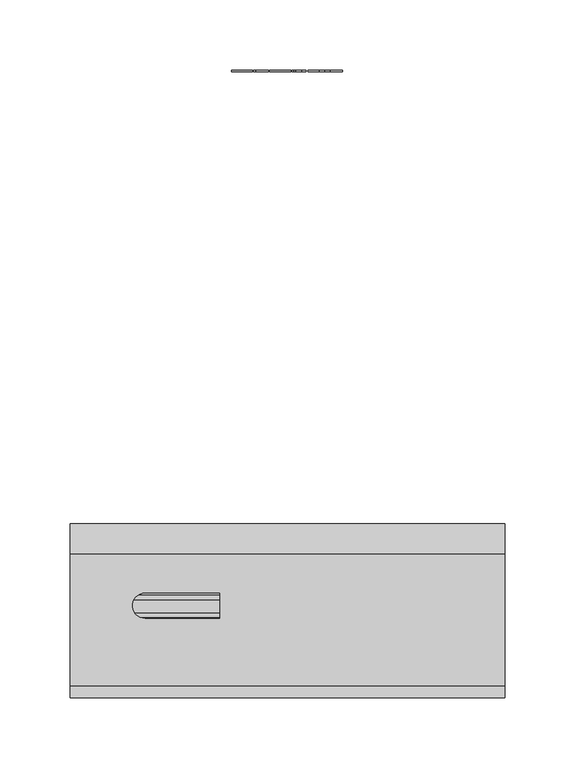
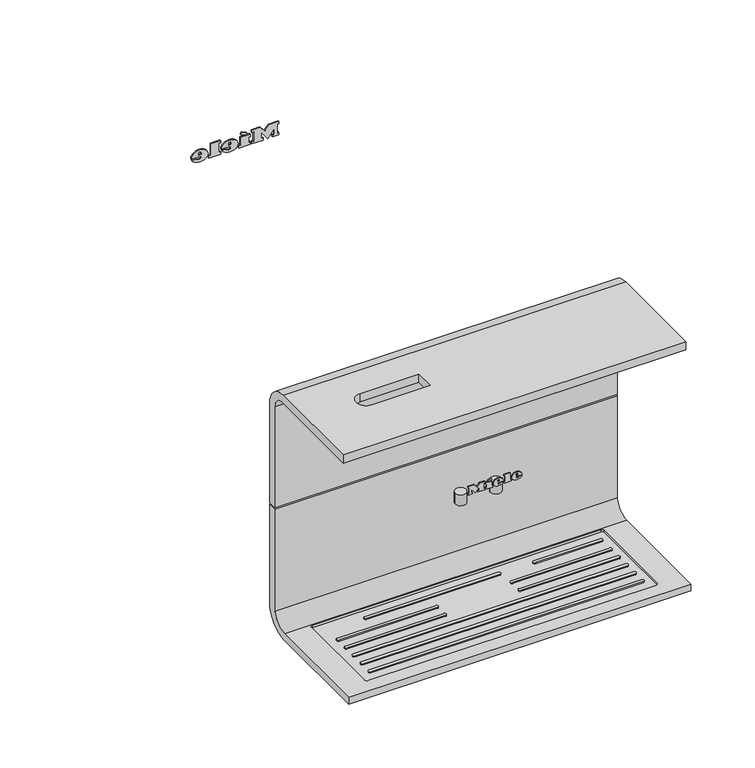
"""IFC4 building model written with IfcOpenShell, lengths in millimetres: proxy geometry, 10969310_CH_CM7750-CH_OBSW : 29775022_CH_10969310_CM7750-CH_OBSW."""

from ifc_helpers import new_model, si_unit, point, frame, frame_2d, origin, place, context, project, spatial, polyline, circle_curve, ellipse_curve, trimmed, segment, composite_curve, outline, extrude, source, transform, mapped, element, save
from ifc_brep_helpers import plane_surface, cylinder_surface, revolved_surface, extruded_surface, advanced_brep


def specialty_equipment_da40dc9f(model_context):
    return source(origin(), model_context, "Body", "SolidModel", [
        advanced_brep(
        [(20.656, -404.7777426, 179.388938), (20.656, -404.7777426, 180.196938), (26.008, -404.7777426, 180.196938), (16.696, -404.7777426, 180.196938), (18.896, -404.7777426, 177.492938), (25.872, -404.7777426, 179.388938), (23.456, -404.7777426, 179.388938), (21.552, -404.7777426, 178.492938), (20.656, -404.7777426, 181.220938), (20.656, -404.7777426, 182.092938), (22.024, -404.7777426, 182.092938), (22.024, -404.7777426, 181.220938), (20.656, -403.7777426, 179.388938), (21.552, -403.7777426, 178.492938), (23.456, -403.7777426, 179.388938), (25.872, -403.7777426, 179.388938), (18.896, -403.7777426, 177.492938), (16.696, -403.7777426, 180.196938), (26.008, -403.7777426, 180.196938), (20.656, -403.7777426, 180.196938), (20.656, -403.7777426, 181.220938), (22.024, -403.7777426, 181.220938), (22.024, -403.7777426, 182.092938), (20.656, -403.7777426, 182.092938)],
        [
            (0, 1),
            (1, 2),
            (2, 3, ellipse_curve(frame((21.352, -404.7777426, 180.196938), z_axis=(0.0, -1.0, 0.0), x_axis=(-1.0, 0.0, 0.0)), 4.656, 3.848)),
            (3, 4, circle_curve(frame((19.7920436, -404.7777426, 180.468938), z_axis=(0.0, -1.0, 0.0), x_axis=(0.0, 0.0, -1.0)), 3.1079688)),
            (4, 5, circle_curve(frame((21.2587936, -404.7777426, 182.580938), z_axis=(0.0, -1.0, 0.0), x_axis=(0.0, 0.0, -1.0)), 5.6098607)),
            (5, 6),
            (6, 7, circle_curve(frame((21.9430588, -404.7777426, 180.132938), z_axis=(0.0, 1.0, 0.0), x_axis=(0.0, 0.0, -1.0)), 1.6859795)),
            (7, 0, circle_curve(frame((21.552, -404.7777426, 179.388938), z_axis=(0.0, 1.0, 0.0), x_axis=(0.0, 0.0, -1.0)), 0.896)),
            (8, 9),
            (9, 10, circle_curve(frame((21.34, -404.7777426, 182.092938), z_axis=(0.0, 1.0, 0.0), x_axis=(0.0, 0.0, -1.0)), 0.684)),
            (10, 11),
            (11, 8),
            (12, 13, circle_curve(frame((21.552, -403.7777426, 179.388938), z_axis=(0.0, -1.0, 0.0), x_axis=(0.0, 0.0, -1.0)), 0.896)),
            (13, 14, circle_curve(frame((21.9430588, -403.7777426, 180.132938), z_axis=(0.0, -1.0, 0.0), x_axis=(0.0, 0.0, -1.0)), 1.6859795)),
            (14, 15),
            (15, 16, circle_curve(frame((21.2587936, -403.7777426, 182.580938), z_axis=(0.0, 1.0, 0.0), x_axis=(0.0, 0.0, -1.0)), 5.6098607)),
            (16, 17, circle_curve(frame((19.7920436, -403.7777426, 180.468938), z_axis=(0.0, 1.0, 0.0), x_axis=(0.0, 0.0, -1.0)), 3.1079688)),
            (17, 18, ellipse_curve(frame((21.352, -403.7777426, 180.196938), z_axis=(0.0, 1.0, 0.0), x_axis=(-1.0, 0.0, 0.0)), 4.656, 3.848)),
            (18, 19),
            (19, 12),
            (20, 21),
            (21, 22),
            (22, 23, circle_curve(frame((21.34, -403.7777426, 182.092938), z_axis=(0.0, -1.0, 0.0), x_axis=(0.0, 0.0, -1.0)), 0.684)),
            (23, 20),
            (0, 12),
            (19, 1),
            (18, 2),
            (5, 15),
            (14, 6),
            (17, 3),
            (13, 7),
            (16, 4),
            (8, 20),
            (23, 9),
            (22, 10),
            (21, 11),
        ],
        [
            plane_surface(frame((20.656, -404.7777426, 180.196938), z_axis=(0.0, -1.0, 0.0), x_axis=(0.0, 0.0, 1.0))),
            plane_surface(frame((20.656, -403.7777426, 180.196938), z_axis=(0.0, 1.0, 0.0), x_axis=(0.0, 0.0, -1.0))),
            plane_surface(frame((20.656, -404.7777426, 179.388938), z_axis=(1.0, 0.0, 0.0), x_axis=(0.0, 1.0, 0.0))),
            plane_surface(frame((20.656, -404.7777426, 180.196938), z_axis=(0.0, 0.0, -1.0), x_axis=(0.0, 1.0, 0.0))),
            plane_surface(frame((25.872, -404.7777426, 179.388938), z_axis=(0.0, 0.0, 1.0), x_axis=(0.0, 1.0, 0.0))),
            extruded_surface(trimmed(ellipse_curve(frame((21.352, -402.7777426, 180.196938), z_axis=(0.0, -1.0, 0.0), x_axis=(-1.0, 0.0, 0.0)), 4.656, 3.848), [point((26.008, -402.7777426, 180.196938))], [point((16.696, -402.7777426, 180.196938))], True, "CARTESIAN"), (0.0, -1.0, 0.0), 1.0),
            revolved_surface(polyline([(21.9430588, -403.7777426, 178.4469585), (21.9430588, -404.7777426, 178.4469585)]), (21.9430588, -403.7777426, 180.132938), (0.0, 1.0, 0.0)),
            revolved_surface(polyline([(21.552, -403.7777426, 178.492938), (21.552, -404.7777426, 178.492938)]), (21.552, -403.7777426, 179.388938), (0.0, 1.0, 0.0)),
            cylinder_surface(frame((19.7920436, -403.7777426, 180.468938), z_axis=(0.0, -1.0, 0.0), x_axis=(0.0, 0.0, -1.0)), 3.1079688),
            cylinder_surface(frame((21.2587936, -403.7777426, 182.580938), z_axis=(0.0, -1.0, 0.0), x_axis=(0.0, 0.0, -1.0)), 5.6098607),
            plane_surface(frame((20.656, -404.7777426, 181.220938), z_axis=(1.0, 0.0, 0.0), x_axis=(0.0, 1.0, 0.0))),
            revolved_surface(polyline([(21.34, -403.7777426, 181.408938), (21.34, -404.7777426, 181.408938)]), (21.34, -403.7777426, 182.092938), (0.0, 1.0, 0.0)),
            plane_surface(frame((22.024, -404.7777426, 182.092938), z_axis=(-1.0, 0.0, 0.0), x_axis=(0.0, 1.0, 0.0))),
            plane_surface(frame((22.024, -404.7777426, 181.220938), z_axis=(0.0, 0.0, 1.0), x_axis=(0.0, 1.0, 0.0))),
        ],
        [
            (0, [[1, 2, 3, 4, 5, 6, 7, 8], [9, 10, 11, 12]]),
            (1, [[13, 14, 15, 16, 17, 18, 19, 20], [21, 22, 23, 24]]),
            (2, [[-1, 25, -20, 26]]),
            (3, [[-2, -26, -19, 27]]),
            (4, [[-6, 28, -15, 29]]),
            (5, [[-3, -27, -18, 30]]),
            (6, [[-7, -29, -14, 31]]),
            (7, [[-8, -31, -13, -25]]),
            (8, [[-4, -30, -17, 32]]),
            (9, [[-5, -32, -16, -28]]),
            (10, [[-9, 33, -24, 34]]),
            (11, [[-10, -34, -23, 35]]),
            (12, [[-11, -35, -22, 36]]),
            (13, [[-12, -36, -21, -33]]),
        ],
    ),
        advanced_brep(
        [(3.96, -404.7777426, 179.388938), (3.96, -404.7777426, 180.196938), (9.312, -404.7777426, 180.196938), (0.0, -404.7777426, 180.196938), (2.2, -404.7777426, 177.492938), (9.176, -404.7777426, 179.388938), (6.76, -404.7777426, 179.388938), (4.856, -404.7777426, 178.492938), (3.96, -404.7777426, 181.220938), (3.96, -404.7777426, 182.092938), (5.328, -404.7777426, 182.092938), (5.328, -404.7777426, 181.220938), (3.96, -403.7777426, 179.388938), (4.856, -403.7777426, 178.492938), (6.76, -403.7777426, 179.388938), (9.176, -403.7777426, 179.388938), (2.2, -403.7777426, 177.492938), (0.0, -403.7777426, 180.196938), (9.312, -403.7777426, 180.196938), (3.96, -403.7777426, 180.196938), (3.96, -403.7777426, 181.220938), (5.328, -403.7777426, 181.220938), (5.328, -403.7777426, 182.092938), (3.96, -403.7777426, 182.092938)],
        [
            (0, 1),
            (1, 2),
            (2, 3, ellipse_curve(frame((4.656, -404.7777426, 180.196938), z_axis=(0.0, -1.0, 0.0), x_axis=(-1.0, 0.0, 0.0)), 4.656, 3.848)),
            (3, 4, circle_curve(frame((3.0960436, -404.7777426, 180.468938), z_axis=(0.0, -1.0, 0.0), x_axis=(0.0, 0.0, -1.0)), 3.1079688)),
            (4, 5, circle_curve(frame((4.5627936, -404.7777426, 182.580938), z_axis=(0.0, -1.0, 0.0), x_axis=(0.0, 0.0, -1.0)), 5.6098607)),
            (5, 6),
            (6, 7, circle_curve(frame((5.2470588, -404.7777426, 180.132938), z_axis=(0.0, 1.0, 0.0), x_axis=(0.0, 0.0, -1.0)), 1.6859795)),
            (7, 0, circle_curve(frame((4.856, -404.7777426, 179.388938), z_axis=(0.0, 1.0, 0.0), x_axis=(0.0, 0.0, -1.0)), 0.896)),
            (8, 9),
            (9, 10, circle_curve(frame((4.644, -404.7777426, 182.092938), z_axis=(0.0, 1.0, 0.0), x_axis=(0.0, 0.0, -1.0)), 0.684)),
            (10, 11),
            (11, 8),
            (12, 13, circle_curve(frame((4.856, -403.7777426, 179.388938), z_axis=(0.0, -1.0, 0.0), x_axis=(0.0, 0.0, -1.0)), 0.896)),
            (13, 14, circle_curve(frame((5.2470588, -403.7777426, 180.132938), z_axis=(0.0, -1.0, 0.0), x_axis=(0.0, 0.0, -1.0)), 1.6859795)),
            (14, 15),
            (15, 16, circle_curve(frame((4.5627936, -403.7777426, 182.580938), z_axis=(0.0, 1.0, 0.0), x_axis=(0.0, 0.0, -1.0)), 5.6098607)),
            (16, 17, circle_curve(frame((3.0960436, -403.7777426, 180.468938), z_axis=(0.0, 1.0, 0.0), x_axis=(0.0, 0.0, -1.0)), 3.1079688)),
            (17, 18, ellipse_curve(frame((4.656, -403.7777426, 180.196938), z_axis=(0.0, 1.0, 0.0), x_axis=(-1.0, 0.0, 0.0)), 4.656, 3.848)),
            (18, 19),
            (19, 12),
            (20, 21),
            (21, 22),
            (22, 23, circle_curve(frame((4.644, -403.7777426, 182.092938), z_axis=(0.0, -1.0, 0.0), x_axis=(0.0, 0.0, -1.0)), 0.684)),
            (23, 20),
            (0, 12),
            (19, 1),
            (18, 2),
            (5, 15),
            (14, 6),
            (17, 3),
            (13, 7),
            (16, 4),
            (8, 20),
            (23, 9),
            (22, 10),
            (21, 11),
        ],
        [
            plane_surface(frame((3.96, -404.7777426, 180.196938), z_axis=(0.0, -1.0, 0.0), x_axis=(0.0, 0.0, 1.0))),
            plane_surface(frame((3.96, -403.7777426, 180.196938), z_axis=(0.0, 1.0, 0.0), x_axis=(0.0, 0.0, -1.0))),
            plane_surface(frame((3.96, -404.7777426, 179.388938), z_axis=(1.0, 0.0, 0.0), x_axis=(0.0, 1.0, 0.0))),
            plane_surface(frame((3.96, -404.7777426, 180.196938), z_axis=(0.0, 0.0, -1.0), x_axis=(0.0, 1.0, 0.0))),
            plane_surface(frame((9.176, -404.7777426, 179.388938), z_axis=(0.0, 0.0, 1.0), x_axis=(0.0, 1.0, 0.0))),
            extruded_surface(trimmed(ellipse_curve(frame((4.656, -402.7777426, 180.196938), z_axis=(0.0, -1.0, 0.0), x_axis=(-1.0, 0.0, 0.0)), 4.656, 3.848), [point((9.312, -402.7777426, 180.196938))], [point((0.0, -402.7777426, 180.196938))], True, "CARTESIAN"), (0.0, -1.0, 0.0), 1.0),
            revolved_surface(polyline([(5.2470588, -403.7777426, 178.4469585), (5.2470588, -404.7777426, 178.4469585)]), (5.2470588, -403.7777426, 180.132938), (0.0, 1.0, 0.0)),
            revolved_surface(polyline([(4.856, -403.7777426, 178.492938), (4.856, -404.7777426, 178.492938)]), (4.856, -403.7777426, 179.388938), (0.0, 1.0, 0.0)),
            cylinder_surface(frame((3.0960436, -403.7777426, 180.468938), z_axis=(0.0, -1.0, 0.0), x_axis=(0.0, 0.0, -1.0)), 3.1079688),
            cylinder_surface(frame((4.5627936, -403.7777426, 182.580938), z_axis=(0.0, -1.0, 0.0), x_axis=(0.0, 0.0, -1.0)), 5.6098607),
            plane_surface(frame((3.96, -404.7777426, 181.220938), z_axis=(1.0, 0.0, 0.0), x_axis=(0.0, 1.0, 0.0))),
            revolved_surface(polyline([(4.644, -403.7777426, 181.408938), (4.644, -404.7777426, 181.408938)]), (4.644, -403.7777426, 182.092938), (0.0, 1.0, 0.0)),
            plane_surface(frame((5.328, -404.7777426, 182.092938), z_axis=(-1.0, 0.0, 0.0), x_axis=(0.0, 1.0, 0.0))),
            plane_surface(frame((5.328, -404.7777426, 181.220938), z_axis=(0.0, 0.0, 1.0), x_axis=(0.0, 1.0, 0.0))),
        ],
        [
            (0, [[1, 2, 3, 4, 5, 6, 7, 8], [9, 10, 11, 12]]),
            (1, [[13, 14, 15, 16, 17, 18, 19, 20], [21, 22, 23, 24]]),
            (2, [[-1, 25, -20, 26]]),
            (3, [[-2, -26, -19, 27]]),
            (4, [[-6, 28, -15, 29]]),
            (5, [[-3, -27, -18, 30]]),
            (6, [[-7, -29, -14, 31]]),
            (7, [[-8, -31, -13, -25]]),
            (8, [[-4, -30, -17, 32]]),
            (9, [[-5, -32, -16, -28]]),
            (10, [[-9, 33, -24, 34]]),
            (11, [[-10, -34, -23, 35]]),
            (12, [[-11, -35, -22, 36]]),
            (13, [[-12, -36, -21, -33]]),
        ],
    ),
        extrude(outline(polyline([(185.020938, -4.784), (183.724938, -4.176), (184.988938, -1.464), (186.284938, -2.064), (185.020938, -4.784)])), frame((0.0, -404.7777426, 0.0), z_axis=(0.0, 1.0, 0.0), x_axis=(0.0, 0.0, 1.0)), (0.0, 0.0, 1.0), 1.0),
        extrude(outline(polyline([(183.548938, -6.76), (182.116938, -6.76), (182.116938, -5.808), (178.836938, -5.808), (178.836938, -6.76), (177.492938, -6.76), (177.492938, -0.448), (178.836938, -0.448), (178.836938, -1.376), (183.548938, -1.376), (183.548938, -6.76)])), frame((0.0, -404.7777426, 0.0), z_axis=(0.0, 1.0, 0.0), x_axis=(0.0, 0.0, 1.0)), (0.0, 0.0, 1.0), 1.0),
        extrude(outline(polyline([(184.188938, 9.76), (184.188938, 10.72), (178.836938, 10.72), (178.836938, 9.76), (177.492938, 9.76), (177.492938, 16.248), (178.836938, 16.248), (178.836938, 15.264), (185.492938, 15.264), (185.492938, 9.76), (184.188938, 9.76)])), frame((0.0, -404.7777426, 0.0), z_axis=(0.0, 1.0, 0.0), x_axis=(0.0, 0.0, 1.0)), (0.0, 0.0, 1.0), 1.0),
        extrude(outline(polyline([(184.188938, -22.704), (184.188938, -21.736), (178.836938, -21.736), (178.836938, -22.704), (177.492938, -22.704), (177.492938, -19.184), (178.836938, -19.184), (178.836938, -20.144), (182.2400628, -20.144), (177.492938, -16.568), (182.3081603, -12.976), (178.836938, -12.976), (178.836938, -13.96), (177.492938, -13.96), (177.492938, -7.576), (178.836938, -7.576), (178.836938, -8.592), (184.188938, -8.592), (184.188938, -7.576), (185.492938, -7.576), (185.492938, -12.448), (182.492938, -14.784), (185.492938, -17.128), (185.492938, -22.704), (184.188938, -22.704)])), frame((0.0, -404.7777426, 0.0), z_axis=(0.0, 1.0, 0.0), x_axis=(0.0, 0.0, 1.0)), (0.0, 0.0, 1.0), 1.0),
        advanced_brep(
        [(-31.1634333, 1.0, 258.452223), (-31.1634333, 1.0, 259.765223), (-39.8604333, 1.0, 259.765223), (-24.7284333, 1.0, 259.765223), (-28.3034333, 1.0, 255.371223), (-39.6394333, 1.0, 258.452223), (-35.7134333, 1.0, 258.452223), (-32.6194333, 1.0, 256.996223), (-31.1634333, 1.0, 261.429223), (-31.1634333, 1.0, 262.846223), (-33.3864333, 1.0, 262.846223), (-33.3864333, 1.0, 261.429223), (-31.1634333, 0.0, 258.452223), (-32.6194333, 0.0, 256.996223), (-35.7134333, 0.0, 258.452223), (-39.6394333, 0.0, 258.452223), (-28.3034333, 0.0, 255.371223), (-24.7284333, 0.0, 259.765223), (-39.8604333, 0.0, 259.765223), (-31.1634333, 0.0, 259.765223), (-31.1634333, 0.0, 261.429223), (-33.3864333, 0.0, 261.429223), (-33.3864333, 0.0, 262.846223), (-31.1634333, 0.0, 262.846223)],
        [
            (0, 1),
            (1, 2),
            (2, 3, ellipse_curve(frame((-32.2944333, 1.0, 259.765223), z_axis=(0.0, 1.0, 0.0), x_axis=(1.0, 0.0, 0.0)), 7.566, 6.253)),
            (3, 4, circle_curve(frame((-29.7595042, 1.0, 260.207223), z_axis=(0.0, 1.0, 0.0), x_axis=(0.0, 0.0, -1.0)), 5.0504493)),
            (4, 5, circle_curve(frame((-32.1429729, 1.0, 263.639223), z_axis=(0.0, 1.0, 0.0), x_axis=(0.0, 0.0, -1.0)), 9.1160237)),
            (5, 6),
            (6, 7, circle_curve(frame((-33.2549039, 1.0, 259.661223), z_axis=(0.0, -1.0, 0.0), x_axis=(0.0, 0.0, -1.0)), 2.7397167)),
            (7, 0, circle_curve(frame((-32.6194333, 1.0, 258.452223), z_axis=(0.0, -1.0, 0.0), x_axis=(0.0, 0.0, -1.0)), 1.456)),
            (8, 9),
            (9, 10, circle_curve(frame((-32.2749333, 1.0, 262.846223), z_axis=(0.0, -1.0, 0.0), x_axis=(0.0, 0.0, -1.0)), 1.1115)),
            (10, 11),
            (11, 8),
            (12, 13, circle_curve(frame((-32.6194333, 0.0, 258.452223), z_axis=(0.0, 1.0, 0.0), x_axis=(0.0, 0.0, -1.0)), 1.456)),
            (13, 14, circle_curve(frame((-33.2549039, 0.0, 259.661223), z_axis=(0.0, 1.0, 0.0), x_axis=(0.0, 0.0, -1.0)), 2.7397167)),
            (14, 15),
            (15, 16, circle_curve(frame((-32.1429729, 0.0, 263.639223), z_axis=(0.0, -1.0, 0.0), x_axis=(0.0, 0.0, -1.0)), 9.1160237)),
            (16, 17, circle_curve(frame((-29.7595042, 0.0, 260.207223), z_axis=(0.0, -1.0, 0.0), x_axis=(0.0, 0.0, -1.0)), 5.0504493)),
            (17, 18, ellipse_curve(frame((-32.2944333, 0.0, 259.765223), z_axis=(0.0, -1.0, 0.0), x_axis=(1.0, 0.0, 0.0)), 7.566, 6.253)),
            (18, 19),
            (19, 12),
            (20, 21),
            (21, 22),
            (22, 23, circle_curve(frame((-32.2749333, 0.0, 262.846223), z_axis=(0.0, 1.0, 0.0), x_axis=(0.0, 0.0, -1.0)), 1.1115)),
            (23, 20),
            (0, 12),
            (19, 1),
            (18, 2),
            (5, 15),
            (14, 6),
            (17, 3),
            (13, 7),
            (16, 4),
            (8, 20),
            (23, 9),
            (22, 10),
            (21, 11),
        ],
        [
            plane_surface(frame((-31.1634333, 1.0, 259.765223), z_axis=(0.0, 1.0, 0.0), x_axis=(0.0, 0.0, 1.0))),
            plane_surface(frame((-31.1634333, 0.0, 259.765223), z_axis=(0.0, -1.0, 0.0), x_axis=(0.0, 0.0, -1.0))),
            plane_surface(frame((-31.1634333, 1.0, 258.452223), z_axis=(-1.0, 0.0, 0.0), x_axis=(0.0, -1.0, 0.0))),
            plane_surface(frame((-31.1634333, 1.0, 259.765223), z_axis=(0.0, 0.0, -1.0), x_axis=(0.0, -1.0, 0.0))),
            plane_surface(frame((-39.6394333, 1.0, 258.452223), z_axis=(0.0, 0.0, 1.0), x_axis=(0.0, -1.0, 0.0))),
            extruded_surface(trimmed(ellipse_curve(frame((-32.2944333, -1.0, 259.765223), z_axis=(0.0, 1.0, 0.0), x_axis=(1.0, 0.0, 0.0)), 7.566, 6.253), [point((-39.8604333, -1.0, 259.765223))], [point((-24.7284333, -1.0, 259.765223))], True, "CARTESIAN"), (0.0, 1.0, 0.0), 1.0),
            revolved_surface(polyline([(-33.2549039, 0.0, 256.92150630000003), (-33.2549039, 1.0, 256.92150630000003)]), (-33.2549039, 0.0, 259.661223), (0.0, -1.0, 0.0)),
            revolved_surface(polyline([(-32.6194333, 0.0, 256.996223), (-32.6194333, 1.0, 256.996223)]), (-32.6194333, 0.0, 258.452223), (0.0, -1.0, 0.0)),
            cylinder_surface(frame((-29.7595042, 0.0, 260.207223), z_axis=(0.0, 1.0, 0.0), x_axis=(0.0, 0.0, -1.0)), 5.0504493),
            cylinder_surface(frame((-32.1429729, 0.0, 263.639223), z_axis=(0.0, 1.0, 0.0), x_axis=(0.0, 0.0, -1.0)), 9.1160237),
            plane_surface(frame((-31.1634333, 1.0, 261.429223), z_axis=(-1.0, 0.0, 0.0), x_axis=(0.0, -1.0, 0.0))),
            revolved_surface(polyline([(-32.2749333, 0.0, 261.73472300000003), (-32.2749333, 1.0, 261.73472300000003)]), (-32.2749333, 0.0, 262.846223), (0.0, -1.0, 0.0)),
            plane_surface(frame((-33.3864333, 1.0, 262.846223), z_axis=(1.0, 0.0, 0.0), x_axis=(0.0, -1.0, 0.0))),
            plane_surface(frame((-33.3864333, 1.0, 261.429223), z_axis=(0.0, 0.0, 1.0), x_axis=(0.0, -1.0, 0.0))),
        ],
        [
            (0, [[1, 2, 3, 4, 5, 6, 7, 8], [9, 10, 11, 12]]),
            (1, [[13, 14, 15, 16, 17, 18, 19, 20], [21, 22, 23, 24]]),
            (2, [[-1, 25, -20, 26]]),
            (3, [[-2, -26, -19, 27]]),
            (4, [[-6, 28, -15, 29]]),
            (5, [[-3, -27, -18, 30]]),
            (6, [[-7, -29, -14, 31]]),
            (7, [[-8, -31, -13, -25]]),
            (8, [[-4, -30, -17, 32]]),
            (9, [[-5, -32, -16, -28]]),
            (10, [[-9, 33, -24, 34]]),
            (11, [[-10, -34, -23, 35]]),
            (12, [[-11, -35, -22, 36]]),
            (13, [[-12, -36, -21, -33]]),
        ],
    ),
        advanced_brep(
        [(-4.0324333, 1.0, 258.452223), (-4.0324333, 1.0, 259.765223), (-12.7294333, 1.0, 259.765223), (2.4025667, 1.0, 259.765223), (-1.1724333, 1.0, 255.371223), (-12.5084333, 1.0, 258.452223), (-8.5824333, 1.0, 258.452223), (-5.4884333, 1.0, 256.996223), (-4.0324333, 1.0, 261.429223), (-4.0324333, 1.0, 262.846223), (-6.2554333, 1.0, 262.846223), (-6.2554333, 1.0, 261.429223), (-4.0324333, 0.0, 258.452223), (-5.4884333, 0.0, 256.996223), (-8.5824333, 0.0, 258.452223), (-12.5084333, 0.0, 258.452223), (-1.1724333, 0.0, 255.371223), (2.4025667, 0.0, 259.765223), (-12.7294333, 0.0, 259.765223), (-4.0324333, 0.0, 259.765223), (-4.0324333, 0.0, 261.429223), (-6.2554333, 0.0, 261.429223), (-6.2554333, 0.0, 262.846223), (-4.0324333, 0.0, 262.846223)],
        [
            (0, 1),
            (1, 2),
            (2, 3, ellipse_curve(frame((-5.1634333, 1.0, 259.765223), z_axis=(0.0, 1.0, 0.0), x_axis=(1.0, 0.0, 0.0)), 7.566, 6.253)),
            (3, 4, circle_curve(frame((-2.6285042, 1.0, 260.207223), z_axis=(0.0, 1.0, 0.0), x_axis=(0.0, 0.0, -1.0)), 5.0504493)),
            (4, 5, circle_curve(frame((-5.0119729, 1.0, 263.639223), z_axis=(0.0, 1.0, 0.0), x_axis=(0.0, 0.0, -1.0)), 9.1160237)),
            (5, 6),
            (6, 7, circle_curve(frame((-6.1239039, 1.0, 259.661223), z_axis=(0.0, -1.0, 0.0), x_axis=(0.0, 0.0, -1.0)), 2.7397167)),
            (7, 0, circle_curve(frame((-5.4884333, 1.0, 258.452223), z_axis=(0.0, -1.0, 0.0), x_axis=(0.0, 0.0, -1.0)), 1.456)),
            (8, 9),
            (9, 10, circle_curve(frame((-5.1439333, 1.0, 262.846223), z_axis=(0.0, -1.0, 0.0), x_axis=(0.0, 0.0, -1.0)), 1.1115)),
            (10, 11),
            (11, 8),
            (12, 13, circle_curve(frame((-5.4884333, 0.0, 258.452223), z_axis=(0.0, 1.0, 0.0), x_axis=(0.0, 0.0, -1.0)), 1.456)),
            (13, 14, circle_curve(frame((-6.1239039, 0.0, 259.661223), z_axis=(0.0, 1.0, 0.0), x_axis=(0.0, 0.0, -1.0)), 2.7397167)),
            (14, 15),
            (15, 16, circle_curve(frame((-5.0119729, 0.0, 263.639223), z_axis=(0.0, -1.0, 0.0), x_axis=(0.0, 0.0, -1.0)), 9.1160237)),
            (16, 17, circle_curve(frame((-2.6285042, 0.0, 260.207223), z_axis=(0.0, -1.0, 0.0), x_axis=(0.0, 0.0, -1.0)), 5.0504493)),
            (17, 18, ellipse_curve(frame((-5.1634333, 0.0, 259.765223), z_axis=(0.0, -1.0, 0.0), x_axis=(1.0, 0.0, 0.0)), 7.566, 6.253)),
            (18, 19),
            (19, 12),
            (20, 21),
            (21, 22),
            (22, 23, circle_curve(frame((-5.1439333, 0.0, 262.846223), z_axis=(0.0, 1.0, 0.0), x_axis=(0.0, 0.0, -1.0)), 1.1115)),
            (23, 20),
            (0, 12),
            (19, 1),
            (18, 2),
            (5, 15),
            (14, 6),
            (17, 3),
            (13, 7),
            (16, 4),
            (8, 20),
            (23, 9),
            (22, 10),
            (21, 11),
        ],
        [
            plane_surface(frame((-4.0324333, 1.0, 259.765223), z_axis=(0.0, 1.0, 0.0), x_axis=(0.0, 0.0, 1.0))),
            plane_surface(frame((-4.0324333, 0.0, 259.765223), z_axis=(0.0, -1.0, 0.0), x_axis=(0.0, 0.0, -1.0))),
            plane_surface(frame((-4.0324333, 1.0, 258.452223), z_axis=(-1.0, 0.0, 0.0), x_axis=(0.0, -1.0, 0.0))),
            plane_surface(frame((-4.0324333, 1.0, 259.765223), z_axis=(0.0, 0.0, -1.0), x_axis=(0.0, -1.0, 0.0))),
            plane_surface(frame((-12.5084333, 1.0, 258.452223), z_axis=(0.0, 0.0, 1.0), x_axis=(0.0, -1.0, 0.0))),
            extruded_surface(trimmed(ellipse_curve(frame((-5.1634333, -1.0, 259.765223), z_axis=(0.0, 1.0, 0.0), x_axis=(1.0, 0.0, 0.0)), 7.566, 6.253), [point((-12.7294333, -1.0, 259.765223))], [point((2.4025667, -1.0, 259.765223))], True, "CARTESIAN"), (0.0, 1.0, 0.0), 1.0),
            revolved_surface(polyline([(-6.1239039, 0.0, 256.92150630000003), (-6.1239039, 1.0, 256.92150630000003)]), (-6.1239039, 0.0, 259.661223), (0.0, -1.0, 0.0)),
            revolved_surface(polyline([(-5.4884333, 0.0, 256.996223), (-5.4884333, 1.0, 256.996223)]), (-5.4884333, 0.0, 258.452223), (0.0, -1.0, 0.0)),
            cylinder_surface(frame((-2.6285042, 0.0, 260.207223), z_axis=(0.0, 1.0, 0.0), x_axis=(0.0, 0.0, -1.0)), 5.0504493),
            cylinder_surface(frame((-5.0119729, 0.0, 263.639223), z_axis=(0.0, 1.0, 0.0), x_axis=(0.0, 0.0, -1.0)), 9.1160237),
            plane_surface(frame((-4.0324333, 1.0, 261.429223), z_axis=(-1.0, 0.0, 0.0), x_axis=(0.0, -1.0, 0.0))),
            revolved_surface(polyline([(-5.1439333, 0.0, 261.73472300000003), (-5.1439333, 1.0, 261.73472300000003)]), (-5.1439333, 0.0, 262.846223), (0.0, -1.0, 0.0)),
            plane_surface(frame((-6.2554333, 1.0, 262.846223), z_axis=(1.0, 0.0, 0.0), x_axis=(0.0, -1.0, 0.0))),
            plane_surface(frame((-6.2554333, 1.0, 261.429223), z_axis=(0.0, 0.0, 1.0), x_axis=(0.0, -1.0, 0.0))),
        ],
        [
            (0, [[1, 2, 3, 4, 5, 6, 7, 8], [9, 10, 11, 12]]),
            (1, [[13, 14, 15, 16, 17, 18, 19, 20], [21, 22, 23, 24]]),
            (2, [[-1, 25, -20, 26]]),
            (3, [[-2, -26, -19, 27]]),
            (4, [[-6, 28, -15, 29]]),
            (5, [[-3, -27, -18, 30]]),
            (6, [[-7, -29, -14, 31]]),
            (7, [[-8, -31, -13, -25]]),
            (8, [[-4, -30, -17, 32]]),
            (9, [[-5, -32, -16, -28]]),
            (10, [[-9, 33, -24, 34]]),
            (11, [[-10, -34, -23, 35]]),
            (12, [[-11, -35, -22, 36]]),
            (13, [[-12, -36, -21, -33]]),
        ],
    ),
        extrude(outline(polyline([(267.604223, 10.1765667), (269.658223, 5.7565667), (267.552223, 4.7815667), (265.498223, 9.1885667), (267.604223, 10.1765667)])), frame((0.0, 0.0, 0.0), z_axis=(0.0, 1.0, 0.0), x_axis=(0.0, 0.0, 1.0)), (0.0, 0.0, 1.0), 1.0),
        extrude(outline(polyline([(265.212223, 13.3875667), (265.212223, 4.6385667), (257.555223, 4.6385667), (257.555223, 3.1305667), (255.371223, 3.1305667), (255.371223, 13.3875667), (257.555223, 13.3875667), (257.555223, 11.8405667), (262.885223, 11.8405667), (262.885223, 13.3875667), (265.212223, 13.3875667)])), frame((0.0, 0.0, 0.0), z_axis=(0.0, 1.0, 0.0), x_axis=(0.0, 0.0, 1.0)), (0.0, 0.0, 1.0), 1.0),
        extrude(outline(polyline([(266.252223, -13.4574333), (268.371223, -13.4574333), (268.371223, -22.4014333), (257.555223, -22.4014333), (257.555223, -24.0004333), (255.371223, -24.0004333), (255.371223, -13.4574333), (257.555223, -13.4574333), (257.555223, -15.0174333), (266.252223, -15.0174333), (266.252223, -13.4574333)])), frame((0.0, 0.0, 0.0), z_axis=(0.0, 1.0, 0.0), x_axis=(0.0, 0.0, 1.0)), (0.0, 0.0, 1.0), 1.0),
        extrude(outline(polyline([(266.252223, 39.2965667), (268.371223, 39.2965667), (268.371223, 30.2355667), (263.496223, 26.4265667), (268.371223, 22.6305667), (268.371223, 14.7135667), (266.252223, 14.7135667), (266.252223, 16.3645667), (257.555223, 16.3645667), (257.555223, 14.7135667), (255.371223, 14.7135667), (255.371223, 25.0875667), (257.555223, 25.0875667), (257.555223, 23.4885667), (263.3114453, 23.4885667), (255.371223, 29.3255667), (263.0533477, 35.1365667), (257.555223, 35.1365667), (257.555223, 33.5765667), (255.371223, 33.5765667), (255.371223, 39.2965667), (257.555223, 39.2965667), (257.555223, 37.7235667), (266.252223, 37.7235667), (266.252223, 39.2965667)])), frame((0.0, 0.0, 0.0), z_axis=(0.0, 1.0, 0.0), x_axis=(0.0, 0.0, 1.0)), (0.0, 0.0, 1.0), 1.0),
        extrude(outline(composite_curve([segment(polyline([(-89.8000031, -358.6296101), (30.7999992, -358.6296101)]), True, "CONTINUOUS"), segment(trimmed(circle_curve(frame_2d((30.7999992, -360.0695515)), 1.4399414), [point((30.7999992, -358.6296101))], [point((30.7999992, -361.5094929))], False, "CARTESIAN"), True, "CONTINUOUS"), segment(polyline([(30.7999992, -361.5094929), (-89.8000031, -361.5094929)]), True, "CONTINUOUS"), segment(trimmed(circle_curve(frame_2d((-89.8000031, -360.0695515)), 1.4399414), [point((-89.8000031, -361.5094929))], [point((-89.8000031, -358.6296101))], False, "CARTESIAN"), True, "CONTINUOUS")], self_intersect=False)), frame((0.0, 0.0, 55.6828861), z_axis=(0.0, 0.0, 1.0), x_axis=(1.0, 0.0, 0.0)), (0.0, 0.0, 1.0), 1.0),
        extrude(outline(composite_curve([segment(trimmed(circle_curve(frame_2d((-34.2000008, -374.8195515)), 1.4399395), [point((-34.2000008, -373.379612))], [point((-34.2000008, -376.259491))], False, "CARTESIAN"), True, "CONTINUOUS"), segment(polyline([(-34.2000008, -376.259491), (-123.3000031, -376.259491)]), True, "CONTINUOUS"), segment(trimmed(circle_curve(frame_2d((-123.3000031, -374.8195515)), 1.4399395), [point((-123.3000031, -376.259491))], [point((-123.3000031, -373.379612))], False, "CARTESIAN"), True, "CONTINUOUS"), segment(polyline([(-123.3000031, -373.379612), (-34.2000008, -373.379612)]), True, "CONTINUOUS")], self_intersect=False)), frame((0.0, 0.0, 55.6828861), z_axis=(0.0, 0.0, 1.0), x_axis=(1.0, 0.0, 0.0)), (0.0, 0.0, 1.0), 1.0),
        extrude(outline(composite_curve([segment(trimmed(circle_curve(frame_2d((-34.2000008, -387.3195515)), 1.4399395), [point((-34.2000008, -385.879612))], [point((-34.2000008, -388.759491))], False, "CARTESIAN"), True, "CONTINUOUS"), segment(polyline([(-34.2000008, -388.759491), (-123.3000031, -388.759491)]), True, "CONTINUOUS"), segment(trimmed(circle_curve(frame_2d((-123.3000031, -387.3195515)), 1.4399395), [point((-123.3000031, -388.759491))], [point((-123.3000031, -385.879612))], False, "CARTESIAN"), True, "CONTINUOUS"), segment(polyline([(-123.3000031, -385.879612), (-34.2000008, -385.879612)]), True, "CONTINUOUS")], self_intersect=False)), frame((0.0, 0.0, 55.6828861), z_axis=(0.0, 0.0, 1.0), x_axis=(1.0, 0.0, 0.0)), (0.0, 0.0, 1.0), 1.0),
        extrude(outline(composite_curve([segment(polyline([(34.2000008, -373.379612), (123.3000031, -373.379612)]), True, "CONTINUOUS"), segment(trimmed(circle_curve(frame_2d((123.3000031, -374.8195515)), 1.4399395), [point((123.3000031, -373.379612))], [point((123.3000031, -376.259491))], False, "CARTESIAN"), True, "CONTINUOUS"), segment(polyline([(123.3000031, -376.259491), (34.2000008, -376.259491)]), True, "CONTINUOUS"), segment(trimmed(circle_curve(frame_2d((34.2000008, -374.8195515)), 1.4399395), [point((34.2000008, -376.259491))], [point((34.2000008, -373.379612))], False, "CARTESIAN"), True, "CONTINUOUS")], self_intersect=False)), frame((0.0, 0.0, 55.6828861), z_axis=(0.0, 0.0, 1.0), x_axis=(1.0, 0.0, 0.0)), (0.0, 0.0, 1.0), 1.0),
        extrude(outline(composite_curve([segment(polyline([(34.2000008, -385.879612), (123.3000031, -385.879612)]), True, "CONTINUOUS"), segment(trimmed(circle_curve(frame_2d((123.3000031, -387.3195515)), 1.4399395), [point((123.3000031, -385.879612))], [point((123.3000031, -388.759491))], False, "CARTESIAN"), True, "CONTINUOUS"), segment(polyline([(123.3000031, -388.759491), (34.2000008, -388.759491)]), True, "CONTINUOUS"), segment(trimmed(circle_curve(frame_2d((34.2000008, -387.3195515)), 1.4399395), [point((34.2000008, -388.759491))], [point((34.2000008, -385.879612))], False, "CARTESIAN"), True, "CONTINUOUS")], self_intersect=False)), frame((0.0, 0.0, 55.6828861), z_axis=(0.0, 0.0, 1.0), x_axis=(1.0, 0.0, 0.0)), (0.0, 0.0, 1.0), 1.0),
        extrude(outline(composite_curve([segment(trimmed(circle_curve(frame_2d((123.3000031, -360.066061)), 1.4364509), [point((123.3000031, -358.6296101))], [point((123.3000031, -361.5025119))], False, "CARTESIAN"), True, "CONTINUOUS"), segment(polyline([(123.3000031, -361.5025119), (63.2000008, -361.5025119)]), True, "CONTINUOUS"), segment(trimmed(circle_curve(frame_2d((63.2000008, -360.066061)), 1.4364509), [point((63.2000008, -361.5025119))], [point((63.2000008, -358.6296101))], False, "CARTESIAN"), True, "CONTINUOUS"), segment(polyline([(63.2000008, -358.6296101), (123.3000031, -358.6296101)]), True, "CONTINUOUS")], self_intersect=False)), frame((0.0, 0.0, 55.6828861), z_axis=(0.0, 0.0, 1.0), x_axis=(1.0, 0.0, 0.0)), (0.0, 0.0, 1.0), 1.0),
        extrude(outline(composite_curve([segment(trimmed(circle_curve(frame_2d((123.3000031, -399.8195515)), 1.4399395), [point((123.3000031, -398.379612))], [point((123.3000031, -401.259491))], False, "CARTESIAN"), True, "CONTINUOUS"), segment(polyline([(123.3000031, -401.259491), (-123.3000031, -401.259491)]), True, "CONTINUOUS"), segment(trimmed(circle_curve(frame_2d((-123.3000031, -399.8195515)), 1.4399395), [point((-123.3000031, -401.259491))], [point((-123.3000031, -398.379612))], False, "CARTESIAN"), True, "CONTINUOUS"), segment(polyline([(-123.3000031, -398.379612), (123.3000031, -398.379612)]), True, "CONTINUOUS")], self_intersect=False)), frame((0.0, 0.0, 55.6828861), z_axis=(0.0, 0.0, 1.0), x_axis=(1.0, 0.0, 0.0)), (0.0, 0.0, 1.0), 1.0),
        extrude(outline(composite_curve([segment(trimmed(circle_curve(frame_2d((123.3000031, -412.3195515)), 1.4399395), [point((123.3000031, -410.879612))], [point((123.3000031, -413.759491))], False, "CARTESIAN"), True, "CONTINUOUS"), segment(polyline([(123.3000031, -413.759491), (-123.3000031, -413.759491)]), True, "CONTINUOUS"), segment(trimmed(circle_curve(frame_2d((-123.3000031, -412.3195515)), 1.4399395), [point((-123.3000031, -413.759491))], [point((-123.3000031, -410.879612))], False, "CARTESIAN"), True, "CONTINUOUS"), segment(polyline([(-123.3000031, -410.879612), (123.3000031, -410.879612)]), True, "CONTINUOUS")], self_intersect=False)), frame((0.0, 0.0, 55.6828861), z_axis=(0.0, 0.0, 1.0), x_axis=(1.0, 0.0, 0.0)), (0.0, 0.0, 1.0), 1.0),
        extrude(outline(composite_curve([segment(trimmed(circle_curve(frame_2d((123.3000031, -424.8195515)), 1.4399395), [point((123.3000031, -423.379612))], [point((123.3000031, -426.259491))], False, "CARTESIAN"), True, "CONTINUOUS"), segment(polyline([(123.3000031, -426.259491), (-123.3000031, -426.259491)]), True, "CONTINUOUS"), segment(trimmed(circle_curve(frame_2d((-123.3000031, -424.8195515)), 1.4399395), [point((-123.3000031, -426.259491))], [point((-123.3000031, -423.379612))], False, "CARTESIAN"), True, "CONTINUOUS"), segment(polyline([(-123.3000031, -423.379612), (123.3000031, -423.379612)]), True, "CONTINUOUS")], self_intersect=False)), frame((0.0, 0.0, 55.6828861), z_axis=(0.0, 0.0, 1.0), x_axis=(1.0, 0.0, 0.0)), (0.0, 0.0, 1.0), 1.0),
        extrude(outline(composite_curve([segment(trimmed(circle_curve(frame_2d((-16.0000019, -381.0626945)), 4.9690895), [point((-20.9690914, -381.0626945))], [point((-11.0309124, -381.0626945))], False, "CARTESIAN"), True, "CONTINUOUS"), segment(trimmed(circle_curve(frame_2d((-16.0000019, -381.0626945)), 4.9690895), [point((-11.0309124, -381.0626945))], [point((-20.9690914, -381.0626945))], False, "CARTESIAN"), True, "CONTINUOUS")], self_intersect=False)), frame((0.0, 0.0, 154.158347), z_axis=(0.0, 0.0, 1.0), x_axis=(1.0, 0.0, 0.0)), (0.0, 0.0, 1.0), 10.2986058),
        extrude(outline(composite_curve([segment(trimmed(circle_curve(frame_2d((16.0000019, -381.0626945)), 4.9690895), [point((11.0309124, -381.0626945))], [point((20.9690914, -381.0626945))], False, "CARTESIAN"), True, "CONTINUOUS"), segment(trimmed(circle_curve(frame_2d((16.0000019, -381.0626945)), 4.9690895), [point((20.9690914, -381.0626945))], [point((11.0309124, -381.0626945))], False, "CARTESIAN"), True, "CONTINUOUS")], self_intersect=False)), frame((0.0, 0.0, 154.158347), z_axis=(0.0, 0.0, 1.0), x_axis=(1.0, 0.0, 0.0)), (0.0, 0.0, 1.0), 10.2986058),
        advanced_brep(
        [(155.0, -344.8401863, 48.6867505), (155.0, -322.1928372, 71.3340996), (155.0, -322.1928372, 165.1828861), (155.0, -330.4237909, 165.1828861), (155.0, -330.4237909, 67.4853609), (155.0, -345.5957967, 55.2884562), (155.0, -446.3224052, 55.2884562), (155.0, -446.3224052, 48.6867505), (-155.0, -344.8401863, 48.6867505), (-155.0, -446.3224052, 48.6867505), (-155.0, -446.3224052, 55.2884562), (-155.0, -345.5957967, 55.2884562), (-155.0, -330.4237909, 67.4853609), (-155.0, -330.4237909, 165.1828861), (-155.0, -322.1928372, 165.1828861), (-155.0, -322.1928372, 71.3340996), (-130.3254782, -346.6990032, 55.2884562), (130.7278103, -346.6990032, 55.2884562), (132.7278103, -348.6990032, 55.2884562), (132.7278103, -431.7959701, 55.2884562), (130.7278103, -433.7959701, 55.2884562), (-130.3254782, -433.7959701, 55.2884562), (-132.3254782, -431.7959701, 55.2884562), (-132.3254782, -348.6990032, 55.2884562), (130.7278103, -346.6990032, 53.082887), (-130.3254782, -346.6990032, 53.082887), (-132.3254782, -348.6990032, 53.082887), (-132.3254782, -431.7959701, 53.082887), (-130.3254782, -433.7959701, 53.082887), (130.7278103, -433.7959701, 53.082887), (132.7278103, -431.7959701, 53.082887), (132.7278103, -348.6990032, 53.082887)],
        [
            (0, 1, circle_curve(frame((155.0, -344.8401863, 71.3340996), z_axis=(1.0, 0.0, 0.0), x_axis=(0.0, 1.0, 0.0)), 22.647349)),
            (1, 2),
            (2, 3),
            (3, 4),
            (4, 5, circle_curve(frame((155.0, -345.5957967, 70.8233093), z_axis=(-1.0, 0.0, 0.0), x_axis=(0.0, 1.0, 0.0)), 15.5348531)),
            (5, 6),
            (6, 7),
            (7, 0),
            (8, 9),
            (9, 10),
            (10, 11),
            (11, 12, circle_curve(frame((-155.0, -345.5957967, 70.8233093), z_axis=(1.0, 0.0, 0.0), x_axis=(0.0, 1.0, 0.0)), 15.5348531)),
            (12, 13),
            (13, 14),
            (14, 15),
            (15, 8, circle_curve(frame((-155.0, -344.8401863, 71.3340996), z_axis=(-1.0, 0.0, 0.0), x_axis=(0.0, 1.0, 0.0)), 22.647349)),
            (0, 8),
            (15, 1),
            (5, 11),
            (10, 6),
            (16, 17),
            (17, 18, circle_curve(frame((130.7278103, -348.6990032, 55.2884562), z_axis=(0.0, 0.0, -1.0), x_axis=(1.0, 0.0, 0.0)), 2.0)),
            (18, 19),
            (19, 20, circle_curve(frame((130.7278103, -431.7959701, 55.2884562), z_axis=(0.0, 0.0, -1.0), x_axis=(1.0, 0.0, 0.0)), 2.0)),
            (20, 21),
            (21, 22, circle_curve(frame((-130.3254782, -431.7959701, 55.2884562), z_axis=(0.0, 0.0, -1.0), x_axis=(1.0, 0.0, 0.0)), 2.0)),
            (22, 23),
            (23, 16, circle_curve(frame((-130.3254782, -348.6990032, 55.2884562), z_axis=(0.0, 0.0, -1.0), x_axis=(1.0, 0.0, 0.0)), 2.0)),
            (9, 7),
            (14, 2),
            (13, 3),
            (12, 4),
            (24, 25),
            (25, 26, circle_curve(frame((-130.3254782, -348.6990032, 53.082887), z_axis=(0.0, 0.0, 1.0), x_axis=(1.0, 0.0, 0.0)), 2.0)),
            (26, 27),
            (27, 28, circle_curve(frame((-130.3254782, -431.7959701, 53.082887), z_axis=(0.0, 0.0, 1.0), x_axis=(1.0, 0.0, 0.0)), 2.0)),
            (28, 29),
            (29, 30, circle_curve(frame((130.7278103, -431.7959701, 53.082887), z_axis=(0.0, 0.0, 1.0), x_axis=(1.0, 0.0, 0.0)), 2.0)),
            (30, 31),
            (31, 24, circle_curve(frame((130.7278103, -348.6990032, 53.082887), z_axis=(0.0, 0.0, 1.0), x_axis=(1.0, 0.0, 0.0)), 2.0)),
            (24, 17),
            (16, 25),
            (26, 23),
            (22, 27),
            (28, 21),
            (20, 29),
            (30, 19),
            (18, 31),
        ],
        [
            plane_surface(frame((155.0, -322.1928372, 71.3340996), z_axis=(1.0, 0.0, 0.0), x_axis=(0.0, 0.0, 1.0))),
            plane_surface(frame((-155.0, -322.1928372, 71.3340996), z_axis=(-1.0, 0.0, 0.0), x_axis=(0.0, 0.0, -1.0))),
            cylinder_surface(frame((-155.0, -344.8401863, 71.3340996), z_axis=(1.0, 0.0, 0.0), x_axis=(0.0, 1.0, 0.0)), 22.647349),
            plane_surface(frame((155.0, -345.5957967, 55.2884562), z_axis=(0.0, 0.0, 1.0), x_axis=(-1.0, 0.0, 0.0))),
            plane_surface(frame((155.0, -446.3224052, 55.2884562), z_axis=(0.0, -1.0, 0.0), x_axis=(-1.0, 0.0, 0.0))),
            plane_surface(frame((155.0, -446.3224052, 48.6867505), z_axis=(0.0, 0.0, -1.0), x_axis=(-1.0, 0.0, 0.0))),
            plane_surface(frame((155.0, -322.1928372, 71.3340996), z_axis=(0.0, 1.0, 0.0), x_axis=(-1.0, 0.0, 0.0))),
            plane_surface(frame((155.0, -322.1928372, 165.1828861), z_axis=(0.0, 0.0, 1.0), x_axis=(-1.0, 0.0, 0.0))),
            plane_surface(frame((155.0, -330.4237909, 165.1828861), z_axis=(0.0, -1.0, 0.0), x_axis=(-1.0, 0.0, 0.0))),
            plane_surface(frame((-143.8160737, -346.6990032, 53.082887), z_axis=(0.0, 0.0, 1.0), x_axis=(1.0, 0.0, 0.0))),
            plane_surface(frame((130.7278103, -346.6990032, 58.1666663), z_axis=(0.0, -1.0, 0.0), x_axis=(0.0, 0.0, -1.0))),
            plane_surface(frame((-132.3254782, -348.6990032, 58.1666663), z_axis=(1.0, 0.0, 0.0), x_axis=(0.0, 0.0, -1.0))),
            plane_surface(frame((-130.3254782, -433.7959701, 58.1666663), z_axis=(0.0, 1.0, 0.0), x_axis=(0.0, 0.0, -1.0))),
            plane_surface(frame((132.7278103, -431.7959701, 58.1666663), z_axis=(-1.0, 0.0, 0.0), x_axis=(0.0, 0.0, -1.0))),
            revolved_surface(polyline([(-128.3254782, -348.6990032, 55.2884562), (-128.3254782, -348.6990032, 53.082887)]), (-130.3254782, -348.6990032, 53.082887), (0.0, 0.0, 1.0)),
            revolved_surface(polyline([(-128.3254782, -431.7959701, 55.2884562), (-128.3254782, -431.7959701, 53.082887)]), (-130.3254782, -431.7959701, 53.082887), (0.0, 0.0, 1.0)),
            revolved_surface(polyline([(132.7278103, -431.7959701, 55.2884562), (132.7278103, -431.7959701, 53.082887)]), (130.7278103, -431.7959701, 53.082887), (0.0, 0.0, 1.0)),
            revolved_surface(polyline([(132.7278103, -348.6990032, 55.2884562), (132.7278103, -348.6990032, 53.082887)]), (130.7278103, -348.6990032, 53.082887), (0.0, 0.0, 1.0)),
            revolved_surface(polyline([(-155.0, -330.0609436, 70.8233093), (155.0, -330.0609436, 70.8233093)]), (-155.0, -345.5957967, 70.8233093), (-1.0, 0.0, 0.0)),
        ],
        [
            (0, [[1, 2, 3, 4, 5, 6, 7, 8]]),
            (1, [[9, 10, 11, 12, 13, 14, 15, 16]]),
            (2, [[-1, 17, -16, 18]]),
            (3, [[-6, 19, -11, 20], [21, 22, 23, 24, 25, 26, 27, 28]]),
            (4, [[-7, -20, -10, 29]]),
            (5, [[-8, -29, -9, -17]]),
            (6, [[-2, -18, -15, 30]]),
            (7, [[-3, -30, -14, 31]]),
            (8, [[-4, -31, -13, 32]]),
            (9, [[33, 34, 35, 36, 37, 38, 39, 40]]),
            (10, [[-33, 41, -21, 42]]),
            (11, [[-35, 43, -27, 44]]),
            (12, [[-37, 45, -25, 46]]),
            (13, [[-39, 47, -23, 48]]),
            (14, [[-34, -42, -28, -43]]),
            (15, [[-36, -44, -26, -45]]),
            (16, [[-38, -46, -24, -47]]),
            (17, [[-40, -48, -22, -41]]),
            (18, [[-5, -32, -12, -19]]),
        ],
    ),
        advanced_brep(
        [(155.0, -437.886262, 274.4229333), (155.0, -341.5779306, 274.4229333), (155.0, -330.4237909, 263.2687935), (155.0, -330.4237909, 166.6248875), (155.0, -322.1551041, 166.6248875), (155.0, -322.1551041, 260.9246125), (155.0, -343.6633777, 282.4328861), (155.0, -437.886262, 282.4328861), (-155.0, -437.886262, 274.4229333), (-155.0, -437.886262, 282.4328861), (-155.0, -343.6633777, 282.4328861), (-155.0, -322.1551041, 260.9246125), (-155.0, -322.1551041, 166.6248875), (-155.0, -330.4237909, 166.6248875), (-155.0, -330.4237909, 263.2687935), (-155.0, -341.5779306, 274.4229333), (-48.3455649, -389.548955, 282.4328861), (-101.5820313, -389.548955, 282.4328861), (-101.5820313, -371.768887, 282.4328861), (-48.4430595, -371.768887, 282.4328861), (-101.5820313, -389.548955, 274.4229333), (-48.3455649, -389.548955, 274.4229333), (-48.4430595, -371.768887, 274.4229333), (-101.5820313, -371.768887, 274.4229333)],
        [
            (0, 1),
            (1, 2, circle_curve(frame((155.0, -341.5779306, 263.2687935), z_axis=(-1.0, 0.0, 0.0), x_axis=(0.0, 1.0, 0.0)), 11.1541398)),
            (2, 3),
            (3, 4),
            (4, 5),
            (5, 6, circle_curve(frame((155.0, -343.6633777, 260.9246125), z_axis=(1.0, 0.0, 0.0), x_axis=(0.0, 1.0, 0.0)), 21.5082736)),
            (6, 7),
            (7, 0),
            (8, 9),
            (9, 10),
            (10, 11, circle_curve(frame((-155.0, -343.6633777, 260.9246125), z_axis=(-1.0, 0.0, 0.0), x_axis=(0.0, 1.0, 0.0)), 21.5082736)),
            (11, 12),
            (12, 13),
            (13, 14),
            (14, 15, circle_curve(frame((-155.0, -341.5779306, 263.2687935), z_axis=(1.0, 0.0, 0.0), x_axis=(0.0, 1.0, 0.0)), 11.1541398)),
            (15, 8),
            (5, 11),
            (10, 6),
            (9, 7),
            (16, 17),
            (17, 18, circle_curve(frame((-101.5820313, -380.658921, 282.4328861), z_axis=(0.0, 0.0, -1.0), x_axis=(1.0, 0.0, 0.0)), 8.890034)),
            (18, 19),
            (19, 16, circle_curve(frame((45.5581895, -380.1437448, 282.4328861), z_axis=(0.0, 0.0, 1.0), x_axis=(1.0, 0.0, 0.0)), 94.3735824)),
            (8, 0),
            (15, 1),
            (20, 21),
            (21, 22, circle_curve(frame((45.5581895, -380.1437448, 274.4229333), z_axis=(0.0, 0.0, -1.0), x_axis=(1.0, 0.0, 0.0)), 94.3735824)),
            (22, 23),
            (23, 20, circle_curve(frame((-101.5820313, -380.658921, 274.4229333), z_axis=(0.0, 0.0, 1.0), x_axis=(1.0, 0.0, 0.0)), 8.890034)),
            (14, 2),
            (13, 3),
            (12, 4),
            (20, 17),
            (16, 21),
            (19, 22),
            (18, 23),
        ],
        [
            plane_surface(frame((155.0, -322.1928372, 71.3340996), z_axis=(1.0, 0.0, 0.0), x_axis=(0.0, 0.0, 1.0))),
            plane_surface(frame((-155.0, -322.1928372, 71.3340996), z_axis=(-1.0, 0.0, 0.0), x_axis=(0.0, 0.0, -1.0))),
            cylinder_surface(frame((0.0, -343.6633777, 260.9246125), z_axis=(1.0, 0.0, 0.0), x_axis=(0.0, 1.0, 0.0)), 21.5082736),
            plane_surface(frame((155.0, -343.6633777, 282.4328861), z_axis=(0.0, 0.0, 1.0), x_axis=(-1.0, 0.0, 0.0))),
            plane_surface(frame((155.0, -437.886262, 282.4328861), z_axis=(0.0, -1.0, 0.0), x_axis=(-1.0, 0.0, 0.0))),
            plane_surface(frame((155.0, -437.886262, 274.4229333), z_axis=(0.0, 0.0, -1.0), x_axis=(-1.0, 0.0, 0.0))),
            revolved_surface(polyline([(-155.0, -330.4237908, 263.2687935), (155.0, -330.4237908, 263.2687935)]), (0.0, -341.5779306, 263.2687935), (-1.0, 0.0, 0.0)),
            plane_surface(frame((155.0, -330.4237909, 263.2687935), z_axis=(0.0, -1.0, 0.0), x_axis=(-1.0, 0.0, 0.0))),
            plane_surface(frame((155.0, -330.4237909, 166.6248875), z_axis=(0.0, 0.0, -1.0), x_axis=(-1.0, 0.0, 0.0))),
            plane_surface(frame((155.0, -322.1551041, 166.6248875), z_axis=(0.0, 1.0, 0.0), x_axis=(-1.0, 0.0, 0.0))),
            plane_surface(frame((-101.5820313, -389.548955, 284.1216089), z_axis=(0.0, 1.0, 0.0), x_axis=(0.0, 0.0, -1.0))),
            cylinder_surface(frame((45.5581895, -380.1437448, 272.6029514), z_axis=(0.0, 0.0, -1.0), x_axis=(1.0, 0.0, 0.0)), 94.3735824),
            plane_surface(frame((-48.4430595, -371.768887, 284.1216089), z_axis=(0.0, -1.0, 0.0), x_axis=(0.0, 0.0, -1.0))),
            revolved_surface(polyline([(-92.6919973, -380.658921, 282.4328861), (-92.6919973, -380.658921, 274.4229333)]), (-101.5820313, -380.658921, 272.6029514), (0.0, 0.0, 1.0)),
        ],
        [
            (0, [[1, 2, 3, 4, 5, 6, 7, 8]]),
            (1, [[9, 10, 11, 12, 13, 14, 15, 16]]),
            (2, [[-6, 17, -11, 18]]),
            (3, [[-7, -18, -10, 19], [20, 21, 22, 23]]),
            (4, [[-8, -19, -9, 24]]),
            (5, [[-1, -24, -16, 25], [26, 27, 28, 29]]),
            (6, [[-2, -25, -15, 30]]),
            (7, [[-3, -30, -14, 31]]),
            (8, [[-4, -31, -13, 32]]),
            (9, [[-5, -32, -12, -17]]),
            (10, [[33, -20, 34, -26]]),
            (11, [[-34, -23, 35, -27]]),
            (12, [[-35, -22, 36, -28]]),
            (13, [[-33, -29, -36, -21]]),
        ],
    ),
    ])


if __name__ == "__main__":
    model = new_model("IFC4")
    model_context = context("Model", 3, world=origin())
    ifc_project = project(units=[si_unit("LENGTHUNIT", "METRE", prefix="MILLI")], contexts=[model_context])
    site = spatial("IfcSite", under=ifc_project)
    building = spatial("IfcBuilding", under=site)
    placement = place(None, origin())
    specialty_equipment_shape = specialty_equipment_da40dc9f(model_context)
    element("IfcBuildingElementProxy", 1, Name="10969310_CH_CM7750-CH_OBSW : 29775022_CH_10969310_CM7750-CH_OBSW", ObjectType="10969310_CH_CM7750-CH_OBSW : 29775022_CH_10969310_CM7750-CH_OBSW", at=placement, inside=building, context=model_context, shape_type="MappedRepresentation", body=[
        mapped(specialty_equipment_shape, transform((0.0, 0.0, 0.0), x_axis=(1.0, 0.0, 0.0), y_axis=(0.0, 1.0, 0.0), z_axis=(0.0, 0.0, 1.0))),
    ])
    save(model, "model.ifc")
